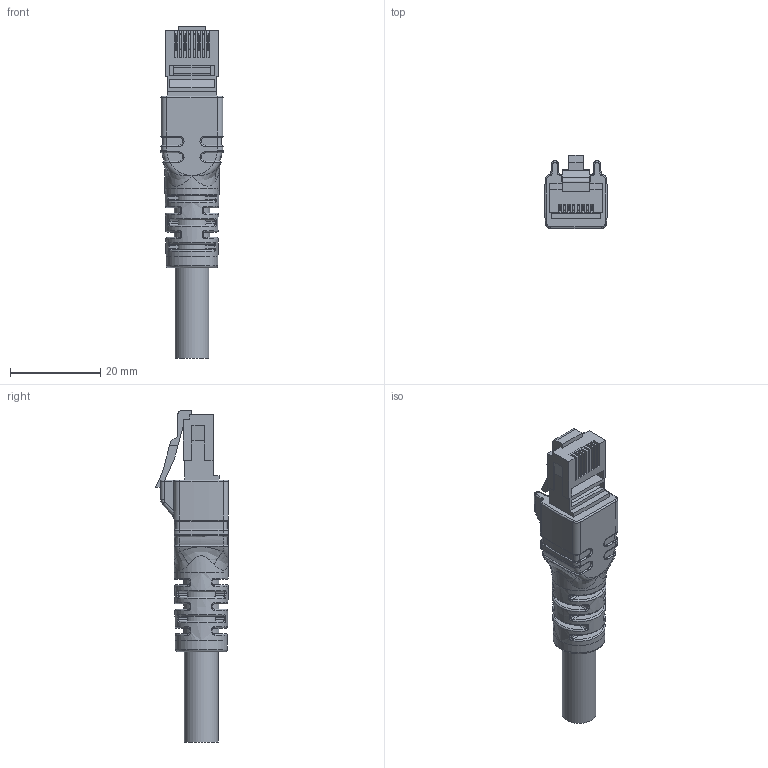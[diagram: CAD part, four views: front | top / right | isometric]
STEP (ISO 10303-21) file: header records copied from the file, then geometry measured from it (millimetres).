
FILE_DESCRIPTION (( 'STEP AP203' ), '1' );
FILE_NAME ('RJ45_RJ45S-New.step', '2019-01-10T20:24:54', ( '' ), ( '' ), 'SwSTEP 2.0', 'SolidWorks 2017', '' );
FILE_SCHEMA (( 'CONFIG_CONTROL_DESIGN' ));
Length unit declared in the file: millimetre
Products named in the file (1): RJ45_RJ45S-New
Bounding box: 13.94 x 16.15 x 73.52 mm (x, y, z)
Volume: 6510.7 mm3; surface area: 4446 mm2
Topology: 1 solids, 1 shells, 652 faces, 1807 edges, 1139 vertices
Faces by surface type: plane 328, cylinder 162, bspline 87, torus 70, cone 3, sphere 2
Full cylindrical faces by diameter (mm): 7.52 x1, 11.5 x1, 12 x1
Entity records: 26597 total; most frequent: CARTESIAN_POINT 10597, ORIENTED_EDGE 3568, DIRECTION 2947, EDGE_CURVE 1784, LINE 1141, VECTOR 1141, VERTEX_POINT 1130, AXIS2_PLACEMENT_3D 903
